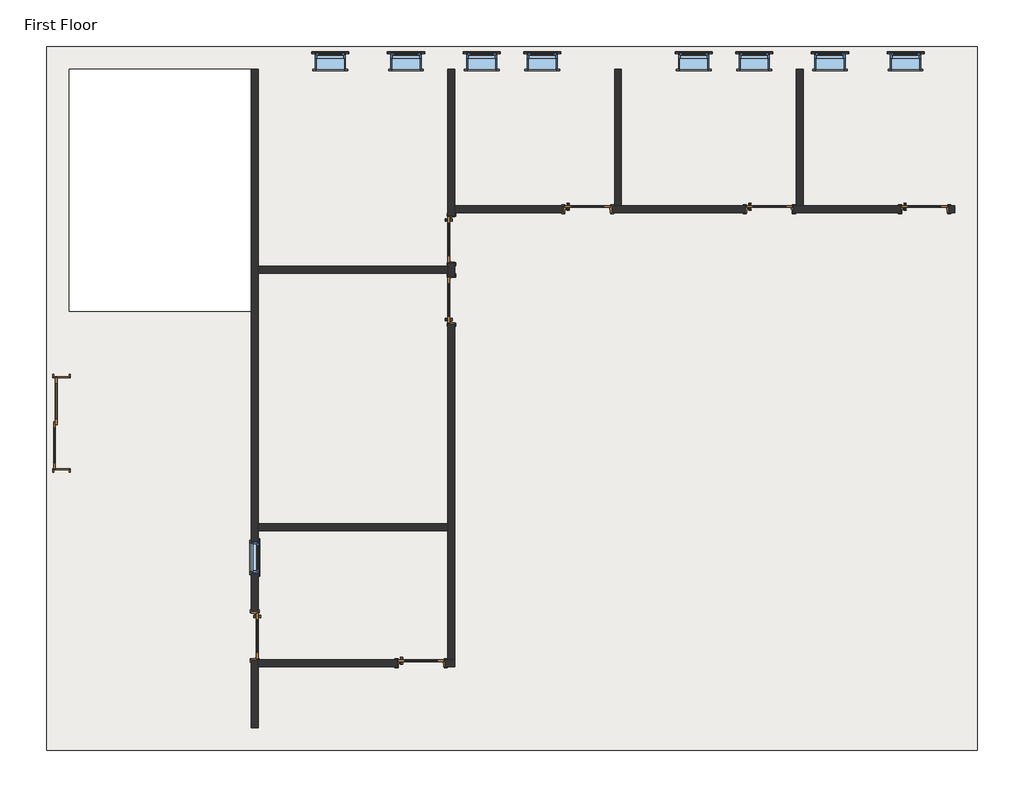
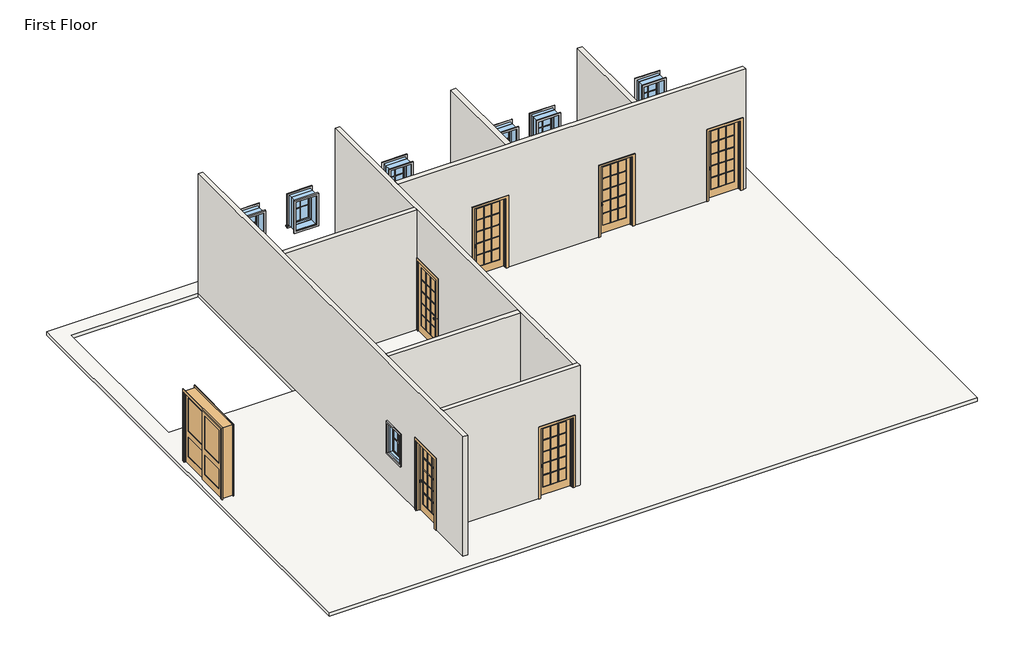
# One storey: 27 proxies, 9 windows, 8 doors, 8 walls, 1 slab.
"""IFC4 building model written with IfcOpenShell, lengths in millimetres."""

from ifc_helpers import new_model, si_unit, frame, origin, place, context, project, spatial, polyline, outline, extrude, faceted_brep, transform, mapped, element, save
from components import muntin_pattern_2x2_muntin_pattern_2x2_cf4092f1, muntin_pattern_2x2_muntin_pattern_2x2_49143b38, trim_window_exterior_flat_with_sill_a665a915, trim_window_exterior_flat_with_sill_4c72db77, trim_window_interior_flat_picture_frame_d485c387, trim_window_interior_flat_picture_frame_dfd23ff3, door_956c32c9, door_918c180d, door_79dd3e86, window_d7bc73cd, window_8e02f281, window_2fd3c40a

model = new_model("IFC4")

# Units and contexts
model_context = context("Model", 3, world=origin())
ifc_project = project(units=[si_unit("LENGTHUNIT", "METRE", prefix="MILLI")], contexts=[model_context])

# Site, building, storey
site = spatial("IfcSite", under=ifc_project)
building = spatial("IfcBuilding", under=site)
storey = spatial("IfcBuildingStorey", under=building, Name="First Floor", Elevation=3657.6)

# Proxies
placement = place(None, origin())
muntin_pattern_2x2_muntin_pattern_2x2_shape = muntin_pattern_2x2_muntin_pattern_2x2_cf4092f1(model_context)
element("IfcBuildingElementProxy", 1, Name="Muntin Pattern_2x2 : Muntin Pattern_2x2", ObjectType="Muntin Pattern_2x2 : Muntin Pattern_2x2", at=placement, inside=storey, context=model_context, shape_type="MappedRepresentation", body=[
    mapped(muntin_pattern_2x2_muntin_pattern_2x2_shape, transform((-14168.6597136, 1858.8705992, 4641.85), x_axis=(0.0, -1.0, 0.0), y_axis=(1.0, 0.0, 0.0), z_axis=(0.0, 0.0, 1.0))),
])
element("IfcBuildingElementProxy", 2, Name="Muntin Pattern_2x2 : Muntin Pattern_2x2", ObjectType="Muntin Pattern_2x2 : Muntin Pattern_2x2", at=placement, inside=storey, context=model_context, shape_type="MappedRepresentation", body=[
    mapped(muntin_pattern_2x2_muntin_pattern_2x2_shape, transform((-1122.5847136, 11991.8830992, 4641.85), x_axis=(1.0, 0.0, 0.0), y_axis=(0.0, 1.0, 0.0), z_axis=(0.0, 0.0, 1.0))),
])
element("IfcBuildingElementProxy", 3, Name="Muntin Pattern_2x2 : Muntin Pattern_2x2", ObjectType="Muntin Pattern_2x2 : Muntin Pattern_2x2", at=placement, inside=storey, context=model_context, shape_type="MappedRepresentation", body=[
    mapped(muntin_pattern_2x2_muntin_pattern_2x2_shape, transform((-2646.5847136, 11991.8830992, 4641.85), x_axis=(1.0, 0.0, 0.0), y_axis=(0.0, 1.0, 0.0), z_axis=(0.0, 0.0, 1.0))),
])
element("IfcBuildingElementProxy", 4, Name="Muntin Pattern_2x2 : Muntin Pattern_2x2", ObjectType="Muntin Pattern_2x2 : Muntin Pattern_2x2", at=placement, inside=storey, context=model_context, shape_type="MappedRepresentation", body=[
    mapped(muntin_pattern_2x2_muntin_pattern_2x2_shape, transform((-4170.5847136, 11991.8830992, 4641.85), x_axis=(1.0, 0.0, 0.0), y_axis=(0.0, 1.0, 0.0), z_axis=(0.0, 0.0, 1.0))),
])
element("IfcBuildingElementProxy", 5, Name="Muntin Pattern_2x2 : Muntin Pattern_2x2", ObjectType="Muntin Pattern_2x2 : Muntin Pattern_2x2", at=placement, inside=storey, context=model_context, shape_type="MappedRepresentation", body=[
    mapped(muntin_pattern_2x2_muntin_pattern_2x2_shape, transform((-5389.7847136, 11991.8830992, 4641.85), x_axis=(1.0, 0.0, 0.0), y_axis=(0.0, 1.0, 0.0), z_axis=(0.0, 0.0, 1.0))),
])
muntin_pattern_2x2_muntin_pattern_2x2_2_shape = muntin_pattern_2x2_muntin_pattern_2x2_49143b38(model_context)
element("IfcBuildingElementProxy", 6, Name="Muntin Pattern_2x2 : Muntin Pattern_2x2", ObjectType="Muntin Pattern_2x2 : Muntin Pattern_2x2", at=placement, inside=storey, context=model_context, shape_type="MappedRepresentation", body=[
    mapped(muntin_pattern_2x2_muntin_pattern_2x2_2_shape, transform((-12704.9847136, 11991.8830992, 4641.85), x_axis=(-1.0, 0.0, 0.0), y_axis=(0.0, -1.0, 0.0), z_axis=(0.0, 0.0, 1.0))),
])
element("IfcBuildingElementProxy", 7, Name="Muntin Pattern_2x2 : Muntin Pattern_2x2", ObjectType="Muntin Pattern_2x2 : Muntin Pattern_2x2", at=placement, inside=storey, context=model_context, shape_type="MappedRepresentation", body=[
    mapped(muntin_pattern_2x2_muntin_pattern_2x2_2_shape, transform((-11180.9847136, 11991.8830992, 4641.85), x_axis=(-1.0, 0.0, 0.0), y_axis=(0.0, -1.0, 0.0), z_axis=(0.0, 0.0, 1.0))),
])
element("IfcBuildingElementProxy", 8, Name="Muntin Pattern_2x2 : Muntin Pattern_2x2", ObjectType="Muntin Pattern_2x2 : Muntin Pattern_2x2", at=placement, inside=storey, context=model_context, shape_type="MappedRepresentation", body=[
    mapped(muntin_pattern_2x2_muntin_pattern_2x2_2_shape, transform((-9656.9847136, 11991.8830992, 4641.85), x_axis=(-1.0, 0.0, 0.0), y_axis=(0.0, -1.0, 0.0), z_axis=(0.0, 0.0, 1.0))),
])
element("IfcBuildingElementProxy", 9, Name="Muntin Pattern_2x2 : Muntin Pattern_2x2", ObjectType="Muntin Pattern_2x2 : Muntin Pattern_2x2", at=placement, inside=storey, context=model_context, shape_type="MappedRepresentation", body=[
    mapped(muntin_pattern_2x2_muntin_pattern_2x2_2_shape, transform((-8437.7847136, 11991.8830992, 4641.85), x_axis=(-1.0, 0.0, 0.0), y_axis=(0.0, -1.0, 0.0), z_axis=(0.0, 0.0, 1.0))),
])
trim_window_exterior_flat_with_sill_shape = trim_window_exterior_flat_with_sill_a665a915(model_context)
element("IfcBuildingElementProxy", 10, Name="Trim-Window-Exterior-Flat : with Sill", ObjectType="Trim-Window-Exterior-Flat : with Sill", at=placement, inside=storey, context=model_context, shape_type="MappedRepresentation", body=[
    mapped(trim_window_exterior_flat_with_sill_shape, transform((-14159.1347136, 1858.8705992, 5486.4), x_axis=(0.0, 1.0, 0.0), y_axis=(0.0, 0.0, 1.0), z_axis=(1.0, 0.0, 0.0))),
])
element("IfcBuildingElementProxy", 11, Name="Trim-Window-Exterior-Flat : with Sill", ObjectType="Trim-Window-Exterior-Flat : with Sill", at=placement, inside=storey, context=model_context, shape_type="MappedRepresentation", body=[
    mapped(trim_window_exterior_flat_with_sill_shape, transform((-1122.5847136, 12001.4080992, 5486.4), x_axis=(-1.0, 0.0, 0.0), y_axis=(0.0, 0.0, 1.0), z_axis=(0.0, 1.0, 0.0))),
])
element("IfcBuildingElementProxy", 12, Name="Trim-Window-Exterior-Flat : with Sill", ObjectType="Trim-Window-Exterior-Flat : with Sill", at=placement, inside=storey, context=model_context, shape_type="MappedRepresentation", body=[
    mapped(trim_window_exterior_flat_with_sill_shape, transform((-2646.5847136, 12001.4080992, 5486.4), x_axis=(-1.0, 0.0, 0.0), y_axis=(0.0, 0.0, 1.0), z_axis=(0.0, 1.0, 0.0))),
])
element("IfcBuildingElementProxy", 13, Name="Trim-Window-Exterior-Flat : with Sill", ObjectType="Trim-Window-Exterior-Flat : with Sill", at=placement, inside=storey, context=model_context, shape_type="MappedRepresentation", body=[
    mapped(trim_window_exterior_flat_with_sill_shape, transform((-4170.5847136, 12001.4080992, 5486.4), x_axis=(-1.0, 0.0, 0.0), y_axis=(0.0, 0.0, 1.0), z_axis=(0.0, 1.0, 0.0))),
])
element("IfcBuildingElementProxy", 14, Name="Trim-Window-Exterior-Flat : with Sill", ObjectType="Trim-Window-Exterior-Flat : with Sill", at=placement, inside=storey, context=model_context, shape_type="MappedRepresentation", body=[
    mapped(trim_window_exterior_flat_with_sill_shape, transform((-5389.7847136, 12001.4080992, 5486.4), x_axis=(-1.0, 0.0, 0.0), y_axis=(0.0, 0.0, 1.0), z_axis=(0.0, 1.0, 0.0))),
])
trim_window_exterior_flat_with_sill_2_shape = trim_window_exterior_flat_with_sill_4c72db77(model_context)
element("IfcBuildingElementProxy", 15, Name="Trim-Window-Exterior-Flat : with Sill", ObjectType="Trim-Window-Exterior-Flat : with Sill", at=placement, inside=storey, context=model_context, shape_type="MappedRepresentation", body=[
    mapped(trim_window_exterior_flat_with_sill_2_shape, transform((-12704.9847136, 12001.4080992, 5486.4), x_axis=(1.0, 0.0, 0.0), y_axis=(0.0, 0.0, -1.0), z_axis=(0.0, 1.0, 0.0))),
])
element("IfcBuildingElementProxy", 16, Name="Trim-Window-Exterior-Flat : with Sill", ObjectType="Trim-Window-Exterior-Flat : with Sill", at=placement, inside=storey, context=model_context, shape_type="MappedRepresentation", body=[
    mapped(trim_window_exterior_flat_with_sill_2_shape, transform((-11180.9847136, 12001.4080992, 5486.4), x_axis=(1.0, 0.0, 0.0), y_axis=(0.0, 0.0, -1.0), z_axis=(0.0, 1.0, 0.0))),
])
element("IfcBuildingElementProxy", 17, Name="Trim-Window-Exterior-Flat : with Sill", ObjectType="Trim-Window-Exterior-Flat : with Sill", at=placement, inside=storey, context=model_context, shape_type="MappedRepresentation", body=[
    mapped(trim_window_exterior_flat_with_sill_2_shape, transform((-9656.9847136, 12001.4080992, 5486.4), x_axis=(1.0, 0.0, 0.0), y_axis=(0.0, 0.0, -1.0), z_axis=(0.0, 1.0, 0.0))),
])
element("IfcBuildingElementProxy", 18, Name="Trim-Window-Exterior-Flat : with Sill", ObjectType="Trim-Window-Exterior-Flat : with Sill", at=placement, inside=storey, context=model_context, shape_type="MappedRepresentation", body=[
    mapped(trim_window_exterior_flat_with_sill_2_shape, transform((-8437.7847136, 12001.4080992, 5486.4), x_axis=(1.0, 0.0, 0.0), y_axis=(0.0, 0.0, -1.0), z_axis=(0.0, 1.0, 0.0))),
])
trim_window_interior_flat_picture_frame_shape = trim_window_interior_flat_picture_frame_d485c387(model_context)
element("IfcBuildingElementProxy", 19, Name="Trim-Window-Interior-Flat : Picture Frame", ObjectType="Trim-Window-Interior-Flat : Picture Frame", at=placement, inside=storey, context=model_context, shape_type="MappedRepresentation", body=[
    mapped(trim_window_interior_flat_picture_frame_shape, transform((-14298.8347136, 1858.8705992, 5486.4), x_axis=(0.0, -1.0, 0.0), y_axis=(0.0, 0.0, 1.0), z_axis=(-1.0, 0.0, 0.0))),
])
element("IfcBuildingElementProxy", 20, Name="Trim-Window-Interior-Flat : Picture Frame", ObjectType="Trim-Window-Interior-Flat : Picture Frame", at=placement, inside=storey, context=model_context, shape_type="MappedRepresentation", body=[
    mapped(trim_window_interior_flat_picture_frame_shape, transform((-1122.5847136, 11690.2580992, 5486.4), x_axis=(1.0, 0.0, 0.0), y_axis=(0.0, 0.0, 1.0), z_axis=(0.0, -1.0, 0.0))),
])
element("IfcBuildingElementProxy", 21, Name="Trim-Window-Interior-Flat : Picture Frame", ObjectType="Trim-Window-Interior-Flat : Picture Frame", at=placement, inside=storey, context=model_context, shape_type="MappedRepresentation", body=[
    mapped(trim_window_interior_flat_picture_frame_shape, transform((-2646.5847136, 11690.2580992, 5486.4), x_axis=(1.0, 0.0, 0.0), y_axis=(0.0, 0.0, 1.0), z_axis=(0.0, -1.0, 0.0))),
])
element("IfcBuildingElementProxy", 22, Name="Trim-Window-Interior-Flat : Picture Frame", ObjectType="Trim-Window-Interior-Flat : Picture Frame", at=placement, inside=storey, context=model_context, shape_type="MappedRepresentation", body=[
    mapped(trim_window_interior_flat_picture_frame_shape, transform((-4170.5847136, 11690.2580992, 5486.4), x_axis=(1.0, 0.0, 0.0), y_axis=(0.0, 0.0, 1.0), z_axis=(0.0, -1.0, 0.0))),
])
element("IfcBuildingElementProxy", 23, Name="Trim-Window-Interior-Flat : Picture Frame", ObjectType="Trim-Window-Interior-Flat : Picture Frame", at=placement, inside=storey, context=model_context, shape_type="MappedRepresentation", body=[
    mapped(trim_window_interior_flat_picture_frame_shape, transform((-5389.7847136, 11690.2580992, 5486.4), x_axis=(1.0, 0.0, 0.0), y_axis=(0.0, 0.0, 1.0), z_axis=(0.0, -1.0, 0.0))),
])
trim_window_interior_flat_picture_frame_2_shape = trim_window_interior_flat_picture_frame_dfd23ff3(model_context)
element("IfcBuildingElementProxy", 24, Name="Trim-Window-Interior-Flat : Picture Frame", ObjectType="Trim-Window-Interior-Flat : Picture Frame", at=placement, inside=storey, context=model_context, shape_type="MappedRepresentation", body=[
    mapped(trim_window_interior_flat_picture_frame_2_shape, transform((-12704.9847136, 11690.2580992, 5486.4), x_axis=(-1.0, 0.0, 0.0), y_axis=(0.0, 0.0, -1.0), z_axis=(0.0, -1.0, 0.0))),
])
element("IfcBuildingElementProxy", 25, Name="Trim-Window-Interior-Flat : Picture Frame", ObjectType="Trim-Window-Interior-Flat : Picture Frame", at=placement, inside=storey, context=model_context, shape_type="MappedRepresentation", body=[
    mapped(trim_window_interior_flat_picture_frame_2_shape, transform((-11180.9847136, 11690.2580992, 5486.4), x_axis=(-1.0, 0.0, 0.0), y_axis=(0.0, 0.0, -1.0), z_axis=(0.0, -1.0, 0.0))),
])
element("IfcBuildingElementProxy", 26, Name="Trim-Window-Interior-Flat : Picture Frame", ObjectType="Trim-Window-Interior-Flat : Picture Frame", at=placement, inside=storey, context=model_context, shape_type="MappedRepresentation", body=[
    mapped(trim_window_interior_flat_picture_frame_2_shape, transform((-9656.9847136, 11690.2580992, 5486.4), x_axis=(-1.0, 0.0, 0.0), y_axis=(0.0, 0.0, -1.0), z_axis=(0.0, -1.0, 0.0))),
])
element("IfcBuildingElementProxy", 27, Name="Trim-Window-Interior-Flat : Picture Frame", ObjectType="Trim-Window-Interior-Flat : Picture Frame", at=placement, inside=storey, context=model_context, shape_type="MappedRepresentation", body=[
    mapped(trim_window_interior_flat_picture_frame_2_shape, transform((-8437.7847136, 11690.2580992, 5486.4), x_axis=(-1.0, 0.0, 0.0), y_axis=(0.0, 0.0, -1.0), z_axis=(0.0, -1.0, 0.0))),
])

# Doors
door_shape = door_956c32c9(model_context)
element("IfcDoor", 28, ObjectType="Door-Interior-Double-Sliding-2_Panel-Wood : 72\" x 84\"", at=placement, inside=storey, context=model_context, shape_type="MappedRepresentation", body=[
    mapped(door_shape, transform((-18123.1222136, 4559.7577587, 3657.6), x_axis=(0.0, 1.0, 0.0), y_axis=(-1.0, 0.0, 0.0), z_axis=(0.0, 0.0, 1.0))),
])
door_2_shape = door_918c180d(model_context)
element("IfcDoor", 29, ObjectType="Door-Interior-Single-Full Glass-Wood : 36\" x 84\"", at=placement, inside=storey, context=model_context, shape_type="MappedRepresentation", body=[
    mapped(door_2_shape, transform((-14225.8097136, 277.7205992, 3657.6), x_axis=(0.0, -1.0, 0.0), y_axis=(1.0, 0.0, 0.0), z_axis=(0.0, 0.0, 1.0))),
])
element("IfcDoor", 30, ObjectType="Door-Interior-Single-Full Glass-Wood : 36\" x 84\"", at=placement, inside=storey, context=model_context, shape_type="MappedRepresentation", body=[
    mapped(door_2_shape, transform((-10269.7597136, 7040.4705992, 3657.6), x_axis=(0.0, 1.0, 0.0), y_axis=(-1.0, 0.0, 0.0), z_axis=(0.0, 0.0, 1.0))),
])
element("IfcDoor", 31, ObjectType="Door-Interior-Single-Full Glass-Wood : 36\" x 84\"", at=placement, inside=storey, context=model_context, shape_type="MappedRepresentation", body=[
    mapped(door_2_shape, transform((-7523.3847136, 8872.4455992, 3657.6), x_axis=(1.0, 0.0, 0.0), y_axis=(0.0, 1.0, 0.0), z_axis=(0.0, 0.0, 1.0))),
])
element("IfcDoor", 32, ObjectType="Door-Interior-Single-Full Glass-Wood : 36\" x 84\"", at=placement, inside=storey, context=model_context, shape_type="MappedRepresentation", body=[
    mapped(door_2_shape, transform((-3865.7847136, 8872.4455992, 3657.6), x_axis=(1.0, 0.0, 0.0), y_axis=(0.0, 1.0, 0.0), z_axis=(0.0, 0.0, 1.0))),
])
element("IfcDoor", 33, ObjectType="Door-Interior-Single-Full Glass-Wood : 36\" x 84\"", at=placement, inside=storey, context=model_context, shape_type="MappedRepresentation", body=[
    mapped(door_2_shape, transform((-739.9972136, 8872.4455992, 3657.6), x_axis=(1.0, 0.0, 0.0), y_axis=(0.0, 1.0, 0.0), z_axis=(0.0, 0.0, 1.0))),
])
element("IfcDoor", 34, ObjectType="Door-Interior-Single-Full Glass-Wood : 36\" x 84\"", at=placement, inside=storey, context=model_context, shape_type="MappedRepresentation", body=[
    mapped(door_2_shape, transform((-10876.1847136, -271.5544008, 3657.6), x_axis=(1.0, 0.0, 0.0), y_axis=(0.0, 1.0, 0.0), z_axis=(0.0, 0.0, 1.0))),
])
door_3_shape = door_79dd3e86(model_context)
element("IfcDoor", 35, ObjectType="Door-Interior-Single-Full Glass-Wood : 36\" x 84\"", at=placement, inside=storey, context=model_context, shape_type="MappedRepresentation", body=[
    mapped(door_3_shape, transform((-10269.7597136, 8259.6705992, 3657.6), x_axis=(0.0, -1.0, 0.0), y_axis=(1.0, 0.0, 0.0), z_axis=(0.0, 0.0, 1.0))),
])

# Slab
element("IfcSlab", 36, ObjectType="LW Concrete on Metal Deck", at=placement, inside=storey, context=model_context, shape_type="SweptSolid", body=[
    extrude(outline(polyline([(323.6277864, 12144.2830992), (323.6277864, -2025.7419008), (-18418.3972136, -2025.7419008), (-18418.3972136, 12144.2830992), (323.6277864, 12144.2830992)]), holes=[polyline([(-14298.8347136, 11690.2580992), (-17964.3722136, 11690.2580992), (-17964.3722136, 6811.8705992), (-14298.8347136, 6811.8705992), (-14298.8347136, 11690.2580992)])]), frame((0.0, 0.0, 3552.825), z_axis=(0.0, 0.0, 1.0), x_axis=(1.0, 0.0, 0.0)), (0.0, 0.0, 1.0), 104.775),
])

# Walls
element("IfcWall", 37, ObjectType="Interior - 5 1/2\" Partition (1-hr)", at=placement, inside=storey, context=model_context, shape_type="Brep", body=[
    faceted_brep([(-14298.8347136, -1571.7169008, 7315.2), (-14298.8347136, 11690.2580992, 7315.2), (-14298.8347136, 11690.2580992, 3657.6), (-14298.8347136, 760.3205992, 3657.6), (-14298.8347136, 760.3205992, 5816.6), (-14298.8347136, -204.8794008, 5816.6), (-14298.8347136, -204.8794008, 3657.6), (-14298.8347136, -1571.7169008, 3657.6), (-14298.8347136, 1554.0705992, 5486.4), (-14298.8347136, 1554.0705992, 4572.0), (-14298.8347136, 2163.6705992, 4572.0), (-14298.8347136, 2163.6705992, 5486.4), (-14159.1347136, 11690.2580992, 7315.2), (-14159.1347136, 7719.9205992, 7315.2), (-14159.1347136, 7580.2205992, 7315.2), (-14159.1347136, 2538.3205992, 7315.2), (-14159.1347136, 2398.6205992, 7315.2), (-14159.1347136, -204.8794008, 7315.2), (-14159.1347136, -344.5794008, 7315.2), (-14159.1347136, -1571.7169008, 7315.2), (-14159.1347136, -1571.7169008, 3657.6), (-14159.1347136, -344.5794008, 3657.6), (-14159.1347136, -204.8794008, 3657.6), (-14159.1347136, -204.8794008, 5816.6), (-14159.1347136, 760.3205992, 5816.6), (-14159.1347136, 760.3205992, 3657.6), (-14159.1347136, 2398.6205992, 3657.6), (-14159.1347136, 2538.3205992, 3657.6), (-14159.1347136, 7580.2205992, 3657.6), (-14159.1347136, 7719.9205992, 3657.6), (-14159.1347136, 11690.2580992, 3657.6), (-14159.1347136, 1554.0705992, 5486.4), (-14159.1347136, 2163.6705992, 5486.4), (-14159.1347136, 2163.6705992, 4572.0), (-14159.1347136, 1554.0705992, 4572.0)], [[[0, 1, 2, 3, 4, 5, 6, 7], [8, 9, 10, 11]], [[12, 13, 14, 15, 16, 17, 18, 19, 20, 21, 22, 23, 24, 25, 26, 27, 28, 29, 30], [31, 32, 33, 34]], [[2, 30, 29, 28, 27, 26, 25, 3]], [[20, 7, 6, 22, 21]], [[1, 0, 19, 18, 17, 16, 15, 14, 13, 12]], [[5, 23, 22, 6]], [[23, 5, 4, 24]], [[24, 4, 3, 25]], [[9, 8, 31, 34]], [[10, 9, 34, 33]], [[11, 10, 33, 32]], [[8, 11, 32, 31]], [[2, 1, 12, 30]], [[0, 7, 20, 19]]]),
])
element("IfcWall", 38, ObjectType="Interior - 5 1/2\" Partition (1-hr)", at=placement, inside=storey, context=model_context, shape_type="Brep", body=[
    faceted_brep([(-10196.7347136, -344.5794008, 7315.2), (-14159.1347136, -344.5794008, 7315.2), (-14159.1347136, -344.5794008, 3657.6), (-11358.7847136, -344.5794008, 3657.6), (-11358.7847136, -344.5794008, 5816.6), (-10393.5847136, -344.5794008, 5816.6), (-10393.5847136, -344.5794008, 3657.6), (-10196.7347136, -344.5794008, 3657.6), (-14159.1347136, -204.8794008, 7315.2), (-10336.4347136, -204.8794008, 7315.2), (-10196.7347136, -204.8794008, 7315.2), (-10196.7347136, -204.8794008, 3657.6), (-10336.4347136, -204.8794008, 3657.6), (-10393.5847136, -204.8794008, 3657.6), (-10393.5847136, -204.8794008, 5816.6), (-11358.7847136, -204.8794008, 5816.6), (-11358.7847136, -204.8794008, 3657.6), (-14159.1347136, -204.8794008, 3657.6), (-14159.1347136, -204.8794008, 5816.6)], [[[0, 1, 2, 3, 4, 5, 6, 7]], [[8, 9, 10, 11, 12, 13, 14, 15, 16, 17, 18]], [[2, 17, 16, 3]], [[11, 7, 6, 13, 12]], [[1, 0, 10, 9, 8]], [[2, 1, 8, 18, 17]], [[0, 7, 11, 10]], [[5, 14, 13, 6]], [[14, 5, 4, 15]], [[15, 4, 3, 16]]]),
])
element("IfcWall", 39, ObjectType="Interior - 5 1/2\" Partition (1-hr)", at=placement, inside=storey, context=model_context, shape_type="Brep", body=[
    faceted_brep([(-10196.7347136, 11690.2580992, 7315.2), (-10196.7347136, 8939.1205992, 7315.2), (-10196.7347136, 8799.4205992, 7315.2), (-10196.7347136, -204.8794008, 7315.2), (-10196.7347136, -204.8794008, 3657.6), (-10196.7347136, 6557.8705992, 3657.6), (-10196.7347136, 6557.8705992, 5816.6), (-10196.7347136, 7523.0705992, 5816.6), (-10196.7347136, 7523.0705992, 3657.6), (-10196.7347136, 7777.0705992, 3657.6), (-10196.7347136, 7777.0705992, 5816.6), (-10196.7347136, 8742.2705992, 5816.6), (-10196.7347136, 8742.2705992, 3657.6), (-10196.7347136, 8799.4205992, 3657.6), (-10196.7347136, 8939.1205992, 3657.6), (-10196.7347136, 11690.2580992, 3657.6), (-10336.4347136, -204.8794008, 7315.2), (-10336.4347136, 2398.6205992, 7315.2), (-10336.4347136, 2538.3205992, 7315.2), (-10336.4347136, 7580.2205992, 7315.2), (-10336.4347136, 7719.9205992, 7315.2), (-10336.4347136, 11690.2580992, 7315.2), (-10336.4347136, 11690.2580992, 3657.6), (-10336.4347136, 8742.2705992, 3657.6), (-10336.4347136, 8742.2705992, 5816.6), (-10336.4347136, 7777.0705992, 5816.6), (-10336.4347136, 7777.0705992, 3657.6), (-10336.4347136, 7719.9205992, 3657.6), (-10336.4347136, 7580.2205992, 3657.6), (-10336.4347136, 7523.0705992, 3657.6), (-10336.4347136, 7523.0705992, 5816.6), (-10336.4347136, 6557.8705992, 5816.6), (-10336.4347136, 6557.8705992, 3657.6), (-10336.4347136, 2538.3205992, 3657.6), (-10336.4347136, 2398.6205992, 3657.6), (-10336.4347136, -204.8794008, 3657.6)], [[[0, 1, 2, 3, 4, 5, 6, 7, 8, 9, 10, 11, 12, 13, 14, 15]], [[16, 17, 18, 19, 20, 21, 22, 23, 24, 25, 26, 27, 28, 29, 30, 31, 32, 33, 34, 35]], [[4, 35, 34, 33, 32, 5]], [[8, 29, 28, 27, 26, 9]], [[22, 15, 14, 13, 12, 23]], [[3, 2, 1, 0, 21, 20, 19, 18, 17, 16]], [[4, 3, 16, 35]], [[7, 30, 29, 8]], [[30, 7, 6, 31]], [[31, 6, 5, 32]], [[25, 10, 9, 26]], [[10, 25, 24, 11]], [[11, 24, 23, 12]], [[0, 15, 22, 21]]]),
])
element("IfcWall", 40, ObjectType="Interior - 5 1/2\" Partition (1-hr)", at=placement, inside=storey, context=model_context, shape_type="Brep", body=[
    faceted_brep([(-10196.7347136, 8939.1205992, 7315.2), (-6983.6347136, 8939.1205992, 7315.2), (-6843.9347136, 8939.1205992, 7315.2), (-3326.0347136, 8939.1205992, 7315.2), (-3186.3347136, 8939.1205992, 7315.2), (-130.3972136, 8939.1205992, 7315.2), (-130.3972136, 8939.1205992, 3657.6), (-257.3972136, 8939.1205992, 3657.6), (-257.3972136, 8939.1205992, 5816.6), (-1222.5972136, 8939.1205992, 5816.6), (-1222.5972136, 8939.1205992, 3657.6), (-3186.3347136, 8939.1205992, 3657.6), (-3326.0347136, 8939.1205992, 3657.6), (-3383.1847136, 8939.1205992, 3657.6), (-3383.1847136, 8939.1205992, 5816.6), (-4348.3847136, 8939.1205992, 5816.6), (-4348.3847136, 8939.1205992, 3657.6), (-6843.9347136, 8939.1205992, 3657.6), (-6983.6347136, 8939.1205992, 3657.6), (-7040.7847136, 8939.1205992, 3657.6), (-7040.7847136, 8939.1205992, 5816.6), (-8005.9847136, 8939.1205992, 5816.6), (-8005.9847136, 8939.1205992, 3657.6), (-10196.7347136, 8939.1205992, 3657.6), (-130.3972136, 8799.4205992, 7315.2), (-10196.7347136, 8799.4205992, 7315.2), (-10196.7347136, 8799.4205992, 3657.6), (-8005.9847136, 8799.4205992, 3657.6), (-8005.9847136, 8799.4205992, 5816.6), (-7040.7847136, 8799.4205992, 5816.6), (-7040.7847136, 8799.4205992, 3657.6), (-4348.3847136, 8799.4205992, 3657.6), (-4348.3847136, 8799.4205992, 5816.6), (-3383.1847136, 8799.4205992, 5816.6), (-3383.1847136, 8799.4205992, 3657.6), (-1222.5972136, 8799.4205992, 3657.6), (-1222.5972136, 8799.4205992, 5816.6), (-257.3972136, 8799.4205992, 5816.6), (-257.3972136, 8799.4205992, 3657.6), (-130.3972136, 8799.4205992, 3657.6)], [[[0, 1, 2, 3, 4, 5, 6, 7, 8, 9, 10, 11, 12, 13, 14, 15, 16, 17, 18, 19, 20, 21, 22, 23]], [[24, 25, 26, 27, 28, 29, 30, 31, 32, 33, 34, 35, 36, 37, 38, 39]], [[26, 23, 22, 27]], [[30, 19, 18, 17, 16, 31]], [[34, 13, 12, 11, 10, 35]], [[6, 39, 38, 7]], [[5, 4, 3, 2, 1, 0, 25, 24]], [[0, 23, 26, 25]], [[29, 20, 19, 30]], [[20, 29, 28, 21]], [[21, 28, 27, 22]], [[33, 14, 13, 34]], [[14, 33, 32, 15]], [[15, 32, 31, 16]], [[37, 8, 7, 38]], [[8, 37, 36, 9]], [[9, 36, 35, 10]], [[6, 5, 24, 39]]]),
])
element("IfcWall", 41, ObjectType="Interior - 5 1/2\" Partition (1-hr)", at=placement, inside=storey, context=model_context, shape_type="SweptSolid", body=[
    extrude(outline(polyline([(-10336.4347136, 7580.2205992), (-14159.1347136, 7580.2205992), (-14159.1347136, 7719.9205992), (-10336.4347136, 7719.9205992), (-10336.4347136, 7580.2205992)])), frame((0.0, 0.0, 3657.6), z_axis=(0.0, 0.0, 1.0), x_axis=(1.0, 0.0, 0.0)), (0.0, 0.0, 1.0), 3657.6),
])
element("IfcWall", 42, ObjectType="Interior - 5 1/2\" Partition (1-hr)", at=placement, inside=storey, context=model_context, shape_type="SweptSolid", body=[
    extrude(outline(polyline([(-10336.4347136, 2398.6205992), (-14159.1347136, 2398.6205992), (-14159.1347136, 2538.3205992), (-10336.4347136, 2538.3205992), (-10336.4347136, 2398.6205992)])), frame((0.0, 0.0, 3657.6), z_axis=(0.0, 0.0, 1.0), x_axis=(1.0, 0.0, 0.0)), (0.0, 0.0, 1.0), 3657.6),
])
element("IfcWall", 43, ObjectType="Interior - 5 1/2\" Partition (1-hr)", at=placement, inside=storey, context=model_context, shape_type="SweptSolid", body=[
    extrude(outline(polyline([(-3326.0347136, 8939.1205992), (-3326.0347136, 11690.2580992), (-3186.3347136, 11690.2580992), (-3186.3347136, 8939.1205992), (-3326.0347136, 8939.1205992)])), frame((0.0, 0.0, 3657.6), z_axis=(0.0, 0.0, 1.0), x_axis=(1.0, 0.0, 0.0)), (0.0, 0.0, 1.0), 3657.6),
])
element("IfcWall", 44, ObjectType="Interior - 5 1/2\" Partition (1-hr)", at=placement, inside=storey, context=model_context, shape_type="SweptSolid", body=[
    extrude(outline(polyline([(-6983.6347136, 8939.1205992), (-6983.6347136, 11690.2580992), (-6843.9347136, 11690.2580992), (-6843.9347136, 8939.1205992), (-6983.6347136, 8939.1205992)])), frame((0.0, 0.0, 3657.6), z_axis=(0.0, 0.0, 1.0), x_axis=(1.0, 0.0, 0.0)), (0.0, 0.0, 1.0), 3657.6),
])

# Windows
window_shape = window_d7bc73cd(model_context)
element("IfcWindow", 45, ObjectType="Window-Awning-Single : 24\" x 36\"", at=placement, inside=storey, context=model_context, shape_type="MappedRepresentation", body=[
    mapped(window_shape, transform((-14228.9847136, 1858.8705992, 3657.6), x_axis=(0.0, -1.0, 0.0), y_axis=(1.0, 0.0, 0.0), z_axis=(0.0, 0.0, 1.0))),
])
window_2_shape = window_8e02f281(model_context)
element("IfcWindow", 46, ObjectType="Window-Awning-Single : 24\" x 36\"", at=placement, inside=storey, context=model_context, shape_type="MappedRepresentation", body=[
    mapped(window_2_shape, transform((-12704.9847136, 11845.8330992, 3657.6), x_axis=(-1.0, 0.0, 0.0), y_axis=(0.0, -1.0, 0.0), z_axis=(0.0, 0.0, 1.0))),
])
element("IfcWindow", 47, ObjectType="Window-Awning-Single : 24\" x 36\"", at=placement, inside=storey, context=model_context, shape_type="MappedRepresentation", body=[
    mapped(window_2_shape, transform((-11180.9847136, 11845.8330992, 3657.6), x_axis=(-1.0, 0.0, 0.0), y_axis=(0.0, -1.0, 0.0), z_axis=(0.0, 0.0, 1.0))),
])
element("IfcWindow", 48, ObjectType="Window-Awning-Single : 24\" x 36\"", at=placement, inside=storey, context=model_context, shape_type="MappedRepresentation", body=[
    mapped(window_2_shape, transform((-9656.9847136, 11845.8330992, 3657.6), x_axis=(-1.0, 0.0, 0.0), y_axis=(0.0, -1.0, 0.0), z_axis=(0.0, 0.0, 1.0))),
])
element("IfcWindow", 49, ObjectType="Window-Awning-Single : 24\" x 36\"", at=placement, inside=storey, context=model_context, shape_type="MappedRepresentation", body=[
    mapped(window_2_shape, transform((-8437.7847136, 11845.8330992, 3657.6), x_axis=(-1.0, 0.0, 0.0), y_axis=(0.0, -1.0, 0.0), z_axis=(0.0, 0.0, 1.0))),
])
window_3_shape = window_2fd3c40a(model_context)
element("IfcWindow", 50, ObjectType="Window-Awning-Single : 24\" x 36\"", at=placement, inside=storey, context=model_context, shape_type="MappedRepresentation", body=[
    mapped(window_3_shape, transform((-1122.5847136, 11845.8330992, 3657.6), x_axis=(1.0, 0.0, 0.0), y_axis=(0.0, 1.0, 0.0), z_axis=(0.0, 0.0, 1.0))),
])
element("IfcWindow", 51, ObjectType="Window-Awning-Single : 24\" x 36\"", at=placement, inside=storey, context=model_context, shape_type="MappedRepresentation", body=[
    mapped(window_3_shape, transform((-2646.5847136, 11845.8330992, 3657.6), x_axis=(1.0, 0.0, 0.0), y_axis=(0.0, 1.0, 0.0), z_axis=(0.0, 0.0, 1.0))),
])
element("IfcWindow", 52, ObjectType="Window-Awning-Single : 24\" x 36\"", at=placement, inside=storey, context=model_context, shape_type="MappedRepresentation", body=[
    mapped(window_3_shape, transform((-4170.5847136, 11845.8330992, 3657.6), x_axis=(1.0, 0.0, 0.0), y_axis=(0.0, 1.0, 0.0), z_axis=(0.0, 0.0, 1.0))),
])
element("IfcWindow", 53, ObjectType="Window-Awning-Single : 24\" x 36\"", at=placement, inside=storey, context=model_context, shape_type="MappedRepresentation", body=[
    mapped(window_3_shape, transform((-5389.7847136, 11845.8330992, 3657.6), x_axis=(1.0, 0.0, 0.0), y_axis=(0.0, 1.0, 0.0), z_axis=(0.0, 0.0, 1.0))),
])

save(model, "model.ifc")
